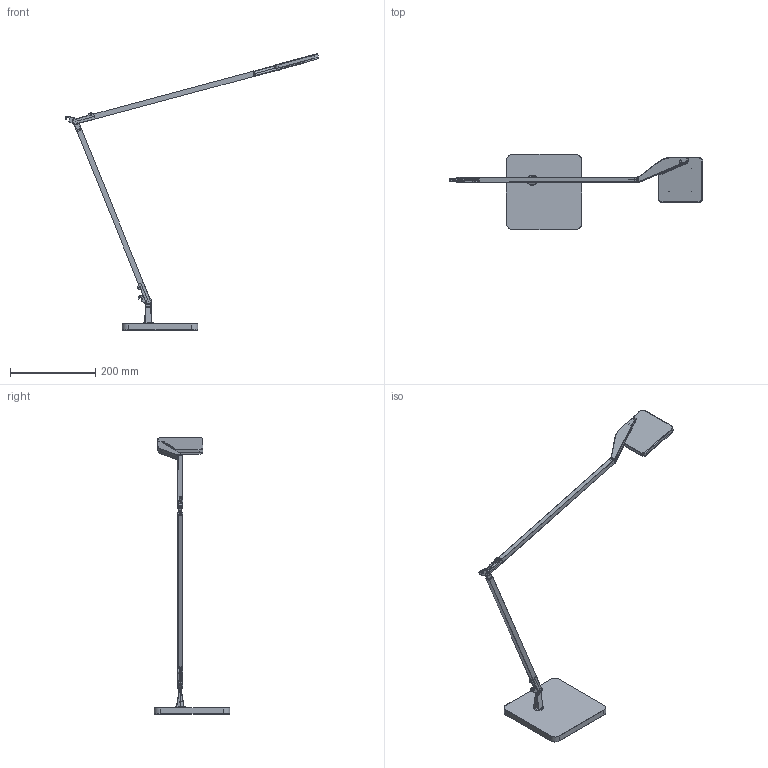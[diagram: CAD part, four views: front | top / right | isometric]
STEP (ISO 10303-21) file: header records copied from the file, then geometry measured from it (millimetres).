
FILE_DESCRIPTION(/* description */ (''),/* implementation_level */ '2;1');
FILE_NAME(/* name */ 'C077__.000',/* time_stamp */ '2024-09-02T11:57:05+02:00',/* author */ (''),/* organization */ (''),/* preprocessor_version */ 'ST-DEVELOPER v16.5',/* originating_system */ '',/* authorisation */ '');
FILE_SCHEMA (('AUTOMOTIVE_DESIGN'));
Products named in the file (1): Document
Bounding box: 592.94 x 177 x 647.4 mm (x, y, z)
Volume: 605329.9 mm3; surface area: 275546.9 mm2
Topology: 33 solids, 40 shells, 2671 faces, 6274 edges, 3797 vertices
Faces by surface type: bspline 1810, plane 861
Entity records: 119048 total; most frequent: CARTESIAN_POINT 81114, ORIENTED_EDGE 12401, EDGE_CURVE 6248, B_SPLINE_CURVE_WITH_KNOTS 4200, VERTEX_POINT 3796, EDGE_LOOP 2881, ADVANCED_FACE 2671, FACE_OUTER_BOUND 2671
